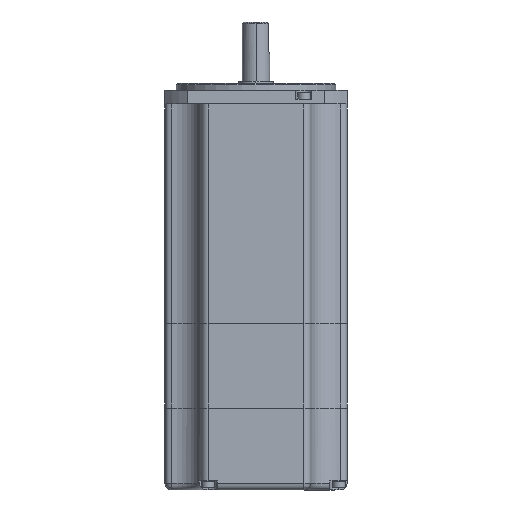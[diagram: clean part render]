
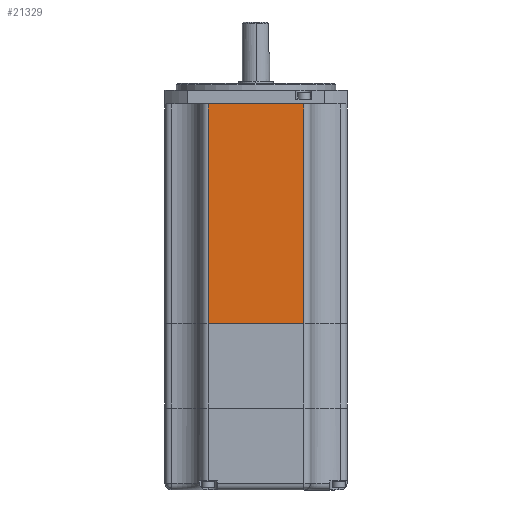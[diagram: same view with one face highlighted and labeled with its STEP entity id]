
A CAD part, front view. The second image highlights one B-rep face of the part: STEP entity #21329.
In plain terms, the highlighted planar face has unit normal (0, 1, 0).
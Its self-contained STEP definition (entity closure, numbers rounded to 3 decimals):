
#225 = FACE_OUTER_BOUND ( 'NONE', #19347, .T. ) ;
#2382 = EDGE_CURVE ( 'NONE', #35463, #4132, #19675, .T. ) ;
#2443 = DIRECTION ( 'NONE',  ( 0., 1., 0. ) ) ;
#2665 = CARTESIAN_POINT ( 'NONE',  ( -25.2, -40., -35. ) ) ;
#4132 = VERTEX_POINT ( 'NONE', #35858 ) ;
#4365 = LINE ( 'NONE', #19000, #27075 ) ;
#4399 = EDGE_CURVE ( 'NONE', #24457, #35463, #22535, .T. ) ;
#6455 = DIRECTION ( 'NONE',  ( -1., 0., 0. ) ) ;
#7045 = CARTESIAN_POINT ( 'NONE',  ( -21., -40., -131.5 ) ) ;
#7612 = CARTESIAN_POINT ( 'NONE',  ( 21., -40., -35. ) ) ;
#7724 = VECTOR ( 'NONE', #34182, 1000. ) ;
#12133 = ORIENTED_EDGE ( 'NONE', *, *, #2382, .T. ) ;
#12216 = AXIS2_PLACEMENT_3D ( 'NONE', #27357, #2443, #39873 ) ;
#17466 = ORIENTED_EDGE ( 'NONE', *, *, #36290, .T. ) ;
#17665 = ORIENTED_EDGE ( 'NONE', *, *, #4399, .T. ) ;
#19000 = CARTESIAN_POINT ( 'NONE',  ( -25.2, -40., -131.5 ) ) ;
#19347 = EDGE_LOOP ( 'NONE', ( #37569, #17466, #17665, #12133 ) ) ;
#19675 = LINE ( 'NONE', #30080, #37493 ) ;
#20642 = LINE ( 'NONE', #28163, #28597 ) ;
#21329 = ADVANCED_FACE ( 'NONE', ( #225 ), #40266, .T. ) ;
#22535 = LINE ( 'NONE', #2665, #7724 ) ;
#24457 = VERTEX_POINT ( 'NONE', #32627 ) ;
#27075 = VECTOR ( 'NONE', #6455, 1000. ) ;
#27357 = CARTESIAN_POINT ( 'NONE',  ( -25.2, -40., -141.15 ) ) ;
#28163 = CARTESIAN_POINT ( 'NONE',  ( -21., -40., -141.15 ) ) ;
#28597 = VECTOR ( 'NONE', #31354, 1000. ) ;
#30080 = CARTESIAN_POINT ( 'NONE',  ( 21., -40., -141.15 ) ) ;
#31354 = DIRECTION ( 'NONE',  ( 0., 0., 1. ) ) ;
#32627 = CARTESIAN_POINT ( 'NONE',  ( -21., -40., -35. ) ) ;
#33077 = VERTEX_POINT ( 'NONE', #7045 ) ;
#33376 = DIRECTION ( 'NONE',  ( 0., 0., -1. ) ) ;
#34182 = DIRECTION ( 'NONE',  ( 1., 0., 0. ) ) ;
#35463 = VERTEX_POINT ( 'NONE', #7612 ) ;
#35858 = CARTESIAN_POINT ( 'NONE',  ( 21., -40., -131.5 ) ) ;
#36232 = EDGE_CURVE ( 'NONE', #4132, #33077, #4365, .T. ) ;
#36290 = EDGE_CURVE ( 'NONE', #33077, #24457, #20642, .T. ) ;
#37493 = VECTOR ( 'NONE', #33376, 1000. ) ;
#37569 = ORIENTED_EDGE ( 'NONE', *, *, #36232, .T. ) ;
#39873 = DIRECTION ( 'NONE',  ( 0., 0., 1. ) ) ;
#40266 = PLANE ( 'NONE',  #12216 ) ;
